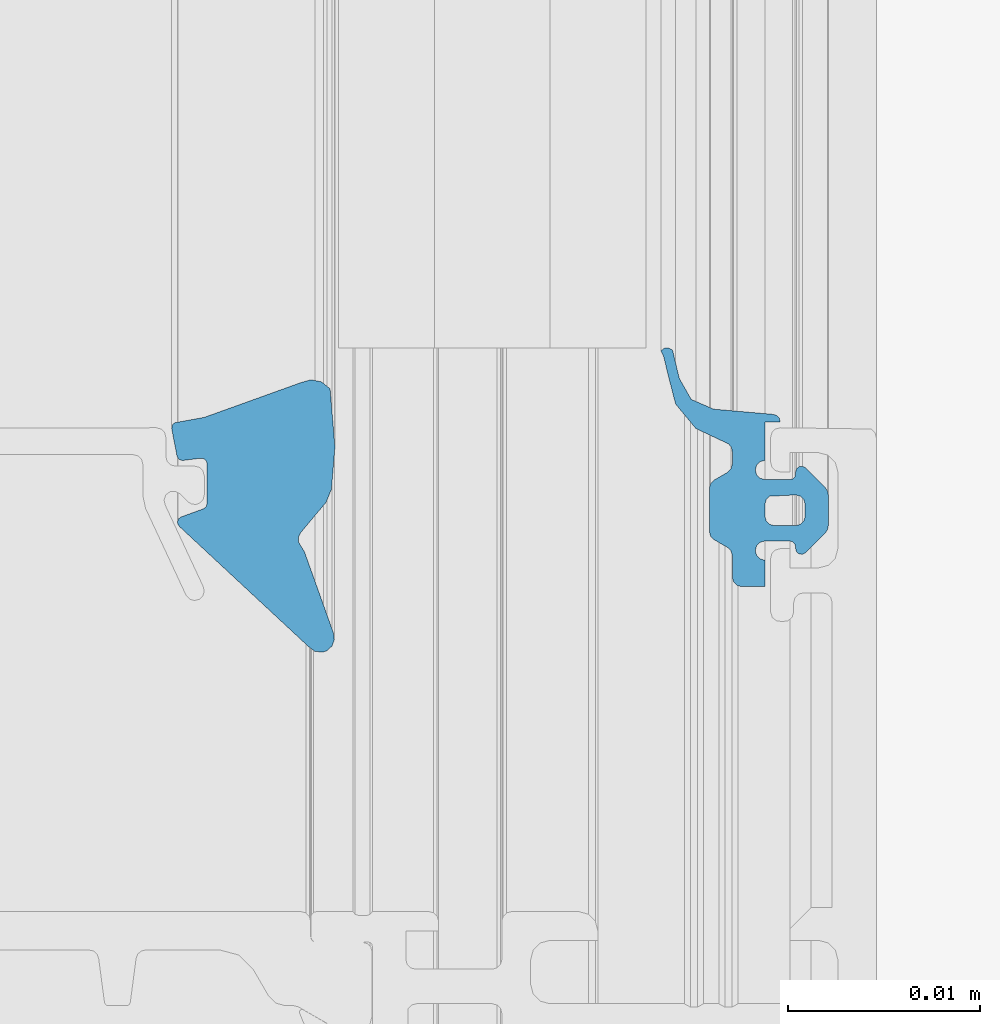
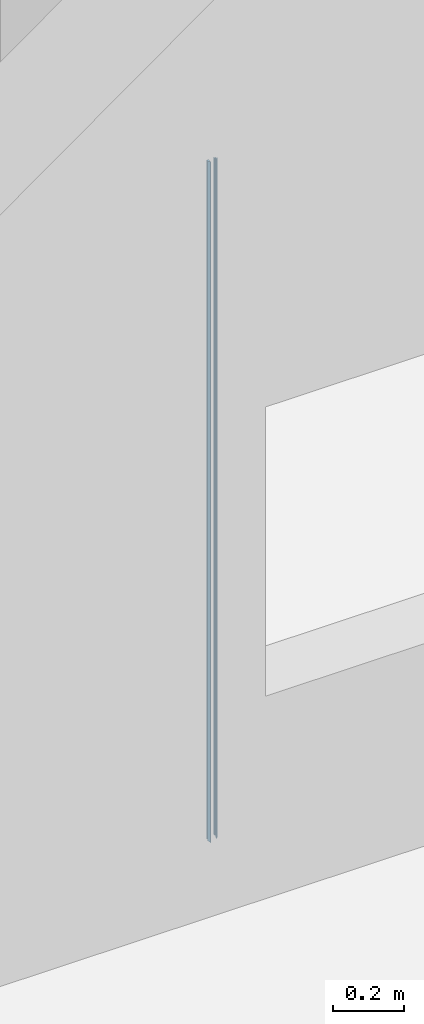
# One storey, part 17 of 65: 1 building element part, 2 elements without a shape of their own.
"""IFC2X3 building model written with IfcOpenShell, lengths in millimetres."""

from ifc_helpers import new_model, entity, si_unit, converted_unit, derived_unit, money_unit, direction, frame, origin_with_axes, place, context, subcontext, project, spatial, faceted_brep, source, transform, mapped, material, type_object, element, aggregate, save


model = new_model("IFC2X3")

# Units and contexts
model_context = context("Model", 3, precision=0.01, world=origin_with_axes(), true_north=direction((0.0, 1.0)))
body_context = subcontext(model_context, "Body", "Model", "MODEL_VIEW")
ifc_project = project(units=[si_unit("LENGTHUNIT", "METRE", prefix="MILLI"), si_unit("AREAUNIT", "SQUARE_METRE"), si_unit("VOLUMEUNIT", "CUBIC_METRE"), converted_unit("PLANEANGLEUNIT", "DEGREE", entity("IfcPlaneAngleMeasure", 0.0174532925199), si_unit("PLANEANGLEUNIT", "RADIAN"), dimensions=[0, 0, 0, 0, 0, 0, 0]), si_unit("SOLIDANGLEUNIT", "STERADIAN"), money_unit("EUR"), converted_unit("TIMEUNIT", "Year", entity("IfcTimeMeasure", 31556926.0), si_unit("TIMEUNIT", "SECOND"), dimensions=[0, 0, 1, 0, 0, 0, 0]), si_unit("MASSUNIT", "GRAM", prefix="KILO"), si_unit("THERMODYNAMICTEMPERATUREUNIT", "DEGREE_CELSIUS"), si_unit("LUMINOUSINTENSITYUNIT", "LUMEN"), si_unit("ENERGYUNIT", "JOULE", prefix="MEGA"), derived_unit("THERMALCONDUCTANCEUNIT", [(si_unit("POWERUNIT", "WATT"), 1), (si_unit("LENGTHUNIT", "METRE"), -1), (si_unit("THERMODYNAMICTEMPERATUREUNIT", "KELVIN"), -1)]), derived_unit("SPECIFICHEATCAPACITYUNIT", [(si_unit("ENERGYUNIT", "JOULE"), 1), (si_unit("MASSUNIT", "GRAM", prefix="KILO"), -1), (si_unit("THERMODYNAMICTEMPERATUREUNIT", "KELVIN"), -1)]), derived_unit("MASSDENSITYUNIT", [(si_unit("MASSUNIT", "GRAM", prefix="KILO"), 1), (si_unit("VOLUMEUNIT", "CUBIC_METRE"), -1)])], contexts=[model_context])

# Site, building, storey
site_placement = place(None, origin_with_axes())
site = spatial("IfcSite", under=ifc_project, at=site_placement, Name="Puškini 31, Narva", CompositionType="ELEMENT")
building_placement = place(site_placement, origin_with_axes())
building = spatial("IfcBuilding", under=site, at=building_placement, Name="Narva Riigigümnaasium", CompositionType="ELEMENT")
storey_placement = place(building_placement, frame((0.0, 0.0, -1320.0), z_axis=(0.0, 0.0, 1.0), x_axis=(1.0, 0.0, 0.0)))
storey = spatial("IfcBuildingStorey", under=building, at=storey_placement, Name="1.korrus -1.32", CompositionType="ELEMENT", Elevation=-1320.0)

# Curtain wall, member, building element part
curtain_wall_type = type_object("IfcCurtainWallType", Name="Curtain Wall Type", PredefinedType="NOTDEFINED")
curtain_wall_placement = place(storey_placement, frame((28354.9542923, 194209.397521, 0.0), z_axis=(0.0, 0.0, 1.0), x_axis=(1.0, 0.0, 0.0)))
curtain_wall = element("IfcCurtainWall", 1, at=curtain_wall_placement, inside=storey, type_object=curtain_wall_type, Name="G-SKLF-07")
member_type = type_object("IfcMemberType", Name="61 x 45", PredefinedType="MULLION")
member_placement = place(curtain_wall_placement, frame((-0.00822307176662, -2029.39735013, 2400.0), z_axis=(0.0, 0.0, -1.0), x_axis=(4.05197718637e-06, 0.999999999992, 0.0)))
member = element("IfcMember", 2, at=member_placement, type_object=member_type, Name="G-SKLF-17", ObjectType="MULLION")
aggregate(curtain_wall, [member])
ifc_material = material(Name="Membraan - Veekindel")
shared_shape = source(origin_with_axes(), body_context, "Body", "Brep", [
    faceted_brep([(61.0413385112, 34.3890442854, -1.09406840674e-06), (59.5800222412, 34.73794757, -1.09406840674e-06), (59.5800222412, 34.73794757, 2340.41997776), (61.0413385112, 34.3890442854, 2338.95866149), (61.1536677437, 34.1934467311, -1.09406840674e-06), (61.1423164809, 33.9681748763, -1.09406840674e-06), (61.0108941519, 33.784859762, -1.09406840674e-06), (60.7381535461, 33.9217644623, -1.09406840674e-06), (59.8409257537, 34.1343131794, -1.09406840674e-06), (58.2346494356, 34.5489145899, -1.09406840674e-06), (56.9567944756, 35.6067920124, -1.09406840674e-06), (56.2495873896, 37.1074172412, -1.09406840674e-06), (56.1542959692, 37.3107917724, -1.09406840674e-06), (55.9795989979, 37.4519392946, -1.09406840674e-06), (55.7607444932, 37.5023809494, -1.09406840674e-06), (55.1093263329, 37.5023809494, -1.09406840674e-06), (54.8593263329, 37.4353936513, -1.09406840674e-06), (54.676313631, 37.2523809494, -1.09406840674e-06), (54.2721684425, 36.5523809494, -1.09406840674e-06), (54.0891557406, 36.3693682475, -1.09406840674e-06), (53.8391557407, 36.3023809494, -1.09406840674e-06), (51.602145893, 36.3023809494, -1.09406840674e-06), (51.352145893, 36.3693682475, -1.09406840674e-06), (51.1691331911, 36.5523809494, -1.09406840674e-06), (50.7649880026, 37.2523809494, -1.09406840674e-06), (50.5819753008, 37.4353936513, -1.09406840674e-06), (50.3319753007, 37.5023809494, -1.09406840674e-06), (49.2206527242, 37.5023809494, -1.09406840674e-06), (48.9706527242, 37.5693682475, -1.09406840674e-06), (48.7876400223, 37.7523809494, -1.09406840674e-06), (48.7206527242, 38.0023809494, -1.09406840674e-06), (48.7206527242, 39.1999494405, -1.09406840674e-06), (50.10004, 39.1999494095, -1.09406840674e-06), (50.1670287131, 38.9499497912, -1.09406840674e-06), (50.3500424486, 38.7669381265, -1.09406840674e-06), (50.6000428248, 38.699952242, -1.09406840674e-06), (50.8500424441, 38.7669409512, -1.09406840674e-06), (51.0330541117, 38.9499546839, -1.09406840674e-06), (51.10004, 39.1999550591, -1.09406840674e-06), (51.10004, 40.4999366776, -1.09406840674e-06), (51.0598476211, 40.6499366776, -1.09406840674e-06), (50.95004, 40.7597442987, -1.09406840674e-06), (50.80004, 40.7999366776, -1.09406840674e-06), (50.7000457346, 40.7999366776, -1.09406840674e-06), (50.5334025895, 40.8504763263, -1.09406840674e-06), (50.4229059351, 40.9850671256, -1.09406840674e-06), (50.4057850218, 41.1583618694, -1.09406840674e-06), (50.4878083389, 41.3119729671, -1.09406840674e-06), (51.5281601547, 42.3533311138, -1.09406840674e-06), (51.6904310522, 42.4618421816, -1.09406840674e-06), (51.8818844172, 42.4999486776, -1.09406840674e-06), (53.517932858, 42.4999486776, -1.09406840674e-06), (53.7093558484, 42.4618547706, -1.09406840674e-06), (53.8716106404, 42.3533776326, -1.09406840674e-06), (54.9122350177, 41.3120206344, -1.09406840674e-06), (54.9942836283, 41.1584047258, -1.09406840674e-06), (54.9771753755, 40.9850924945, -1.09406840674e-06), (54.866675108, 40.850483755, -1.09406840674e-06), (54.7000173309, 40.7999366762, -1.09406840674e-06), (54.6000210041, 40.7999366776, -1.09406840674e-06), (54.4500210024, 40.7597443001, -1.09406840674e-06), (54.3402133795, 40.6499366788, -1.09406840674e-06), (54.300021, 40.4999366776, -1.09406840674e-06), (54.300021, 39.1999606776, -1.09406840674e-06), (54.3670082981, 38.9499606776, -1.09406840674e-06), (54.5500210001, 38.7669479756, -1.09406840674e-06), (54.8000210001, 38.6999606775, -1.09406840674e-06), (55.0500210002, 38.7669479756, -1.09406840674e-06), (55.2330337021, 38.9499606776, -1.09406840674e-06), (55.3000210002, 39.1999606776, -1.09406840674e-06), (57.3000022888, 39.1999494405, -1.09406840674e-06), (57.3000022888, 39.9999846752, -1.09406840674e-06), (57.5000161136, 39.946391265, -1.09406840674e-06), (57.6464370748, 39.799971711, -1.09406840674e-06), (57.7000324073, 39.5999584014, -1.09406840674e-06), (57.9693613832, 36.5265882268, -1.09406840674e-06), (58.4755028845, 35.3628499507, -1.09406840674e-06), (53.5000340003, 40.7999553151, -1.09406840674e-06), (53.4330491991, 41.0499459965, -1.09406840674e-06), (53.2500433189, 41.2329518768, -1.09406840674e-06), (53.0000526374, 41.299936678, -1.09406840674e-06), (52.4000083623, 41.299936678, -1.09406840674e-06), (52.150017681, 41.2329518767, -1.09406840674e-06), (51.9670118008, 41.0499459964, -1.09406840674e-06), (51.9000269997, 40.799955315, -1.09406840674e-06), (51.9000269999, 39.6999268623, -1.09406840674e-06), (51.9670129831, 39.4499317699, -1.09406840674e-06), (52.1500220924, 39.2669226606, -1.09406840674e-06), (52.4000171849, 39.1999366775, -1.09406840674e-06), (53.0000438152, 39.1999366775, -1.09406840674e-06), (53.2500389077, 39.2669226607, -1.09406840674e-06), (53.433048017, 39.44993177, -1.09406840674e-06), (58.4755028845, 35.3628499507, 2341.52449712), (57.9693613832, 36.5265882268, 2342.03063862), (57.7000324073, 39.5999584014, 2342.29996759), (57.6464370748, 39.799971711, 2342.35356293), (57.5000161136, 39.946391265, 2342.49998389), (57.3000022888, 39.9999846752, 2342.69999771), (57.3000022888, 39.1999494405, 2342.69999771), (55.3000210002, 39.1999606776, 2344.699979), (55.2330337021, 38.9499606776, 2344.7669663), (55.0500210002, 38.7669479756, 2344.949979), (54.8000210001, 38.6999606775, 2345.199979), (54.5500210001, 38.7669479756, 2345.449979), (54.3670082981, 38.9499606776, 2345.6329917), (54.300021, 39.1999606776, 2345.699979), (54.300021, 40.4999366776, 2345.699979), (54.3402133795, 40.6499366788, 2345.65978662), (54.4500210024, 40.7597443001, 2345.549979), (54.6000210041, 40.7999366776, 2345.399979), (54.7000173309, 40.7999366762, 2345.29998267), (54.866675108, 40.850483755, 2345.13332489), (54.9771753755, 40.9850924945, 2345.02282462), (54.9942836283, 41.1584047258, 2345.00571637), (54.9122350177, 41.3120206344, 2345.08776498), (53.8716106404, 42.3533776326, 2346.12838936), (53.7093558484, 42.4618547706, 2346.29064415), (53.517932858, 42.4999486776, 2346.48206714), (51.8818844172, 42.4999486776, 2348.11811558), (51.6904310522, 42.4618421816, 2348.30956895), (51.5281601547, 42.3533311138, 2348.47183985), (50.4878083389, 41.3119729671, 2349.51219166), (50.4057850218, 41.1583618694, 2349.59421498), (50.4229059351, 40.9850671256, 2349.57709406), (50.5334025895, 40.8504763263, 2349.46659741), (50.7000457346, 40.7999366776, 2349.29995427), (50.80004, 40.7999366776, 2349.19996), (50.95004, 40.7597442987, 2349.04996), (51.0598476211, 40.6499366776, 2348.94015238), (51.10004, 40.4999366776, 2348.89996), (51.10004, 39.1999550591, 2348.89996), (51.0330541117, 38.9499546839, 2348.96694589), (50.8500424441, 38.7669409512, 2349.14995756), (50.6000428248, 38.699952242, 2349.39995718), (50.3500424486, 38.7669381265, 2349.64995755), (50.1670287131, 38.9499497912, 2349.83297129), (50.10004, 39.1999494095, 2349.89996), (48.7206527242, 39.1999494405, 2351.27934728), (48.7206527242, 38.0023809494, 2351.27934728), (48.7876400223, 37.7523809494, 2351.21235998), (48.9706527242, 37.5693682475, 2351.02934728), (49.2206527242, 37.5023809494, 2350.77934728), (50.3319753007, 37.5023809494, 2349.6680247), (50.5819753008, 37.4353936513, 2349.4180247), (50.7649880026, 37.2523809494, 2349.235012), (51.1691331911, 36.5523809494, 2348.83086681), (51.352145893, 36.3693682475, 2348.64785411), (51.602145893, 36.3023809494, 2348.39785411), (53.8391557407, 36.3023809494, 2346.16084426), (54.0891557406, 36.3693682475, 2345.91084426), (54.2721684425, 36.5523809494, 2345.72783156), (54.676313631, 37.2523809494, 2345.32368637), (54.8593263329, 37.4353936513, 2345.14067367), (55.1093263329, 37.5023809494, 2344.89067367), (55.7607444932, 37.5023809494, 2344.23925551), (55.9795989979, 37.4519392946, 2344.020401), (56.1542959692, 37.3107917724, 2343.84570403), (56.2495873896, 37.1074172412, 2343.75041261), (56.9567944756, 35.6067920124, 2343.04320552), (58.2346494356, 34.5489145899, 2341.76535056), (59.8409257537, 34.1343131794, 2340.15907425), (60.7381535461, 33.9217644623, 2339.26184645), (61.0108941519, 33.784859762, 2338.98910585), (61.1423164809, 33.9681748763, 2338.85768352), (61.1536677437, 34.1934467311, 2338.84633226), (53.5000340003, 40.7999553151, 2346.499966), (53.433048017, 39.44993177, 2346.56695198), (53.2500389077, 39.2669226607, 2346.74996109), (53.0000438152, 39.1999366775, 2346.99995618), (52.4000171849, 39.1999366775, 2347.59998282), (52.1500220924, 39.2669226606, 2347.84997791), (51.9670129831, 39.4499317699, 2348.03298702), (51.9000269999, 39.6999268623, 2348.099973), (51.9000269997, 40.799955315, 2348.099973), (51.9670118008, 41.0499459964, 2348.0329882), (52.150017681, 41.2329518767, 2347.84998232), (52.4000083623, 41.299936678, 2347.59999164), (53.0000526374, 41.299936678, 2346.99994736), (53.2500433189, 41.2329518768, 2346.74995668), (53.4330491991, 41.0499459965, 2346.5669508)], [[[0, 1, 2, 3]], [[0, 4, 5, 6, 7, 8, 9, 10, 11, 12, 13, 14, 15, 16, 17, 18, 19, 20, 21, 22, 23, 24, 25, 26, 27, 28, 29, 30, 31, 32, 33, 34, 35, 36, 37, 38, 39, 40, 41, 42, 43, 44, 45, 46, 47, 48, 49, 50, 51, 52, 53, 54, 55, 56, 57, 58, 59, 60, 61, 62, 63, 64, 65, 66, 67, 68, 69, 70, 71, 72, 73, 74, 75, 76, 1], [77, 78, 79, 80, 81, 82, 83, 84, 85, 86, 87, 88, 89, 90, 91]], [[1, 76, 92, 2]], [[3, 2, 92, 93, 94, 95, 96, 97, 98, 99, 100, 101, 102, 103, 104, 105, 106, 107, 108, 109, 110, 111, 112, 113, 114, 115, 116, 117, 118, 119, 120, 121, 122, 123, 124, 125, 126, 127, 128, 129, 130, 131, 132, 133, 134, 135, 136, 137, 138, 139, 140, 141, 142, 143, 144, 145, 146, 147, 148, 149, 150, 151, 152, 153, 154, 155, 156, 157, 158, 159, 160, 161, 162, 163, 164], [165, 166, 167, 168, 169, 170, 171, 172, 173, 174, 175, 176, 177, 178, 179]], [[4, 0, 3, 164]], [[5, 4, 164, 163]], [[6, 5, 163, 162]], [[7, 6, 162, 161]], [[8, 7, 161, 160]], [[9, 8, 160, 159]], [[10, 9, 159, 158]], [[11, 10, 158, 157]], [[12, 11, 157, 156]], [[13, 12, 156, 155]], [[14, 13, 155, 154]], [[15, 14, 154, 153]], [[16, 15, 153, 152]], [[17, 16, 152, 151]], [[18, 17, 151, 150]], [[19, 18, 150, 149]], [[20, 19, 149, 148]], [[21, 20, 148, 147]], [[22, 21, 147, 146]], [[23, 22, 146, 145]], [[24, 23, 145, 144]], [[25, 24, 144, 143]], [[26, 25, 143, 142]], [[27, 26, 142, 141]], [[28, 27, 141, 140]], [[29, 28, 140, 139]], [[30, 29, 139, 138]], [[31, 30, 138, 137]], [[32, 31, 137, 136]], [[33, 32, 136, 135]], [[34, 33, 135, 134]], [[35, 34, 134, 133]], [[36, 35, 133, 132]], [[37, 36, 132, 131]], [[38, 37, 131, 130]], [[39, 38, 130, 129]], [[40, 39, 129, 128]], [[41, 40, 128, 127]], [[42, 41, 127, 126]], [[43, 42, 126, 125]], [[44, 43, 125, 124]], [[45, 44, 124, 123]], [[46, 45, 123, 122]], [[47, 46, 122, 121]], [[48, 47, 121, 120]], [[49, 48, 120, 119]], [[50, 49, 119, 118]], [[51, 50, 118, 117]], [[52, 51, 117, 116]], [[53, 52, 116, 115]], [[54, 53, 115, 114]], [[55, 54, 114, 113]], [[56, 55, 113, 112]], [[57, 56, 112, 111]], [[58, 57, 111, 110]], [[59, 58, 110, 109]], [[60, 59, 109, 108]], [[61, 60, 108, 107]], [[62, 61, 107, 106]], [[63, 62, 106, 105]], [[64, 63, 105, 104]], [[65, 64, 104, 103]], [[66, 65, 103, 102]], [[67, 66, 102, 101]], [[68, 67, 101, 100]], [[69, 68, 100, 99]], [[70, 69, 99, 98]], [[71, 70, 98, 97]], [[72, 71, 97, 96]], [[73, 72, 96, 95]], [[74, 73, 95, 94]], [[75, 74, 94, 93]], [[76, 75, 93, 92]], [[78, 77, 165, 179]], [[79, 78, 179, 178]], [[80, 79, 178, 177]], [[81, 80, 177, 176]], [[82, 81, 176, 175]], [[83, 82, 175, 174]], [[84, 83, 174, 173]], [[85, 84, 173, 172]], [[86, 85, 172, 171]], [[87, 86, 171, 170]], [[88, 87, 170, 169]], [[89, 88, 169, 168]], [[90, 89, 168, 167]], [[91, 90, 167, 166]], [[77, 91, 166, 165]]]),
    faceted_brep([(59.0307115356, 16.554149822, -1.09406840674e-06), (55.9926715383, 16.8063498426, -1.09406840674e-06), (55.9926715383, 16.8063498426, 2344.00732846), (59.0307115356, 16.554149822, 2340.96928846), (59.3884652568, 16.1092618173, -1.09406840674e-06), (59.5001582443, 15.5494067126, -1.09406840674e-06), (59.3405112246, 15.0012955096, -1.09406840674e-06), (57.5418652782, 10.0035930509, -1.09406840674e-06), (57.2632233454, 8.46932121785, -1.09406840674e-06), (57.1824204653, 8.36745448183, -1.09406840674e-06), (57.0661058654, 8.3093438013, -1.09406840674e-06), (56.9361285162, 8.30590490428, -1.09406840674e-06), (55.5361285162, 8.57803733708, -1.09406840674e-06), (55.4168250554, 8.62997353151, -1.09406840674e-06), (55.3307332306, 8.72753828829, -1.09406840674e-06), (55.2940485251, 8.85237785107, -1.09406840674e-06), (55.4099827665, 9.81272116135, -1.09406840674e-06), (55.3838261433, 9.9780831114, -1.09406840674e-06), (55.2731258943, 10.1036784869, -1.09406840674e-06), (55.1123574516, 10.1503930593, -1.09406840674e-06), (53.0580290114, 10.1503930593, -1.09406840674e-06), (52.8859560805, 10.0961386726, -1.09406840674e-06), (52.7761212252, 9.95299910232, -1.09406840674e-06), (52.3556584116, 8.79778701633, -1.09406840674e-06), (52.2574645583, 8.66326410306, -1.09406840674e-06), (52.1026310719, 8.60190419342, -1.09406840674e-06), (51.938943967, 8.6326446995, -1.09406840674e-06), (51.8169217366, 8.74599822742, -1.09406840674e-06), (45.6142070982, 15.4144760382, -1.09406840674e-06), (45.3418968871, 15.7688623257, -1.09406840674e-06), (45.3195226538, 16.2152275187, -1.09406840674e-06), (45.3889077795, 16.3899097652, -1.09406840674e-06), (45.6241929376, 16.6482027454, -1.09406840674e-06), (45.950966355, 16.7718696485, -1.09406840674e-06), (46.298307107, 16.7340705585, -1.09406840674e-06), (50.5536994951, 15.2121179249, -1.09406840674e-06), (50.8437237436, 15.0307134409, -1.09406840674e-06), (51.0558924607, 14.9074036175, -1.09406840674e-06), (51.3011765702, 14.8998814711, -1.09406840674e-06), (51.5205025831, 15.0099586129, -1.09406840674e-06), (53.1225200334, 16.3483062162, -1.09406840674e-06), (53.7899070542, 16.6230039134, -1.09406840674e-06), (53.7899070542, 16.6230039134, 2346.21009295), (53.1225200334, 16.3483062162, 2346.87747997), (51.5205025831, 15.0099586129, 2348.47949742), (51.3011765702, 14.8998814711, 2348.69882343), (51.0558924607, 14.9074036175, 2348.94410754), (50.8437237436, 15.0307134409, 2349.15627626), (50.5536994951, 15.2121179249, 2349.4463005), (46.298307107, 16.7340705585, 2353.70169289), (45.950966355, 16.7718696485, 2354.04903365), (45.6241929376, 16.6482027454, 2354.37580706), (45.3889077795, 16.3899097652, 2354.61109222), (45.3195226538, 16.2152275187, 2354.68047735), (45.3418968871, 15.7688623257, 2354.65810311), (45.6142070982, 15.4144760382, 2354.3857929), (51.8169217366, 8.74599822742, 2348.18307826), (51.938943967, 8.6326446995, 2348.06105603), (52.1026310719, 8.60190419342, 2347.89736893), (52.2574645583, 8.66326410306, 2347.74253544), (52.3556584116, 8.79778701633, 2347.64434159), (52.7761212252, 9.95299910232, 2347.22387877), (52.8859560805, 10.0961386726, 2347.11404392), (53.0580290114, 10.1503930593, 2346.94197099), (55.1123574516, 10.1503930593, 2344.88764255), (55.2731258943, 10.1036784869, 2344.72687411), (55.3838261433, 9.9780831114, 2344.61617386), (55.4099827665, 9.81272116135, 2344.59001723), (55.2940485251, 8.85237785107, 2344.70595147), (55.3307332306, 8.72753828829, 2344.66926677), (55.4168250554, 8.62997353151, 2344.58317494), (55.5361285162, 8.57803733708, 2344.46387148), (56.9361285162, 8.30590490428, 2343.06387148), (57.0661058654, 8.3093438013, 2342.93389413), (57.1824204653, 8.36745448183, 2342.81757953), (57.2632233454, 8.46932121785, 2342.73677665), (57.5418652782, 10.0035930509, 2342.45813472), (59.3405112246, 15.0012955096, 2340.65948878), (59.5001582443, 15.5494067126, 2340.49984176), (59.3884652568, 16.1092618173, 2340.61153474)], [[[0, 1, 2, 3]], [[0, 4, 5, 6, 7, 8, 9, 10, 11, 12, 13, 14, 15, 16, 17, 18, 19, 20, 21, 22, 23, 24, 25, 26, 27, 28, 29, 30, 31, 32, 33, 34, 35, 36, 37, 38, 39, 40, 41, 1]], [[1, 41, 42, 2]], [[3, 2, 42, 43, 44, 45, 46, 47, 48, 49, 50, 51, 52, 53, 54, 55, 56, 57, 58, 59, 60, 61, 62, 63, 64, 65, 66, 67, 68, 69, 70, 71, 72, 73, 74, 75, 76, 77, 78, 79]], [[4, 0, 3, 79]], [[5, 4, 79, 78]], [[6, 5, 78, 77]], [[7, 6, 77, 76]], [[8, 7, 76, 75]], [[9, 8, 75, 74]], [[10, 9, 74, 73]], [[11, 10, 73, 72]], [[12, 11, 72, 71]], [[13, 12, 71, 70]], [[14, 13, 70, 69]], [[15, 14, 69, 68]], [[16, 15, 68, 67]], [[17, 16, 67, 66]], [[18, 17, 66, 65]], [[19, 18, 65, 64]], [[20, 19, 64, 63]], [[21, 20, 63, 62]], [[22, 21, 62, 61]], [[23, 22, 61, 60]], [[24, 23, 60, 59]], [[25, 24, 59, 58]], [[26, 25, 58, 57]], [[27, 26, 57, 56]], [[28, 27, 56, 55]], [[29, 28, 55, 54]], [[30, 29, 54, 53]], [[31, 30, 53, 52]], [[32, 31, 52, 51]], [[33, 32, 51, 50]], [[34, 33, 50, 49]], [[35, 34, 49, 48]], [[36, 35, 48, 47]], [[37, 36, 47, 46]], [[38, 37, 46, 45]], [[39, 38, 45, 44]], [[40, 39, 44, 43]], [[41, 40, 43, 42]]]),
])
building_element_part_placement = place(member_placement, origin_with_axes())
building_element_part = element("IfcBuildingElementPart", 3, at=building_element_part_placement, material=ifc_material, Name="Membraan - Veekindel", context=body_context, shape_type="MappedRepresentation", body=[
    mapped(shared_shape, transform((0.0, 0.0, 0.0))),
])
aggregate(member, [building_element_part])

save(model, "model.ifc")
